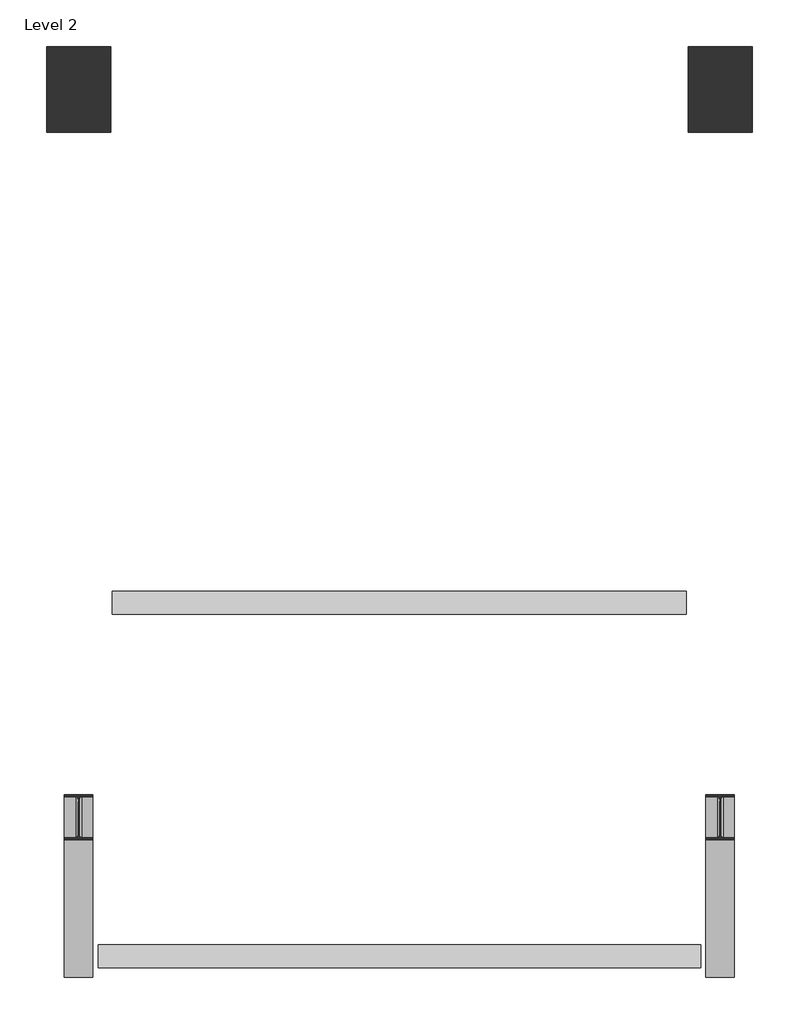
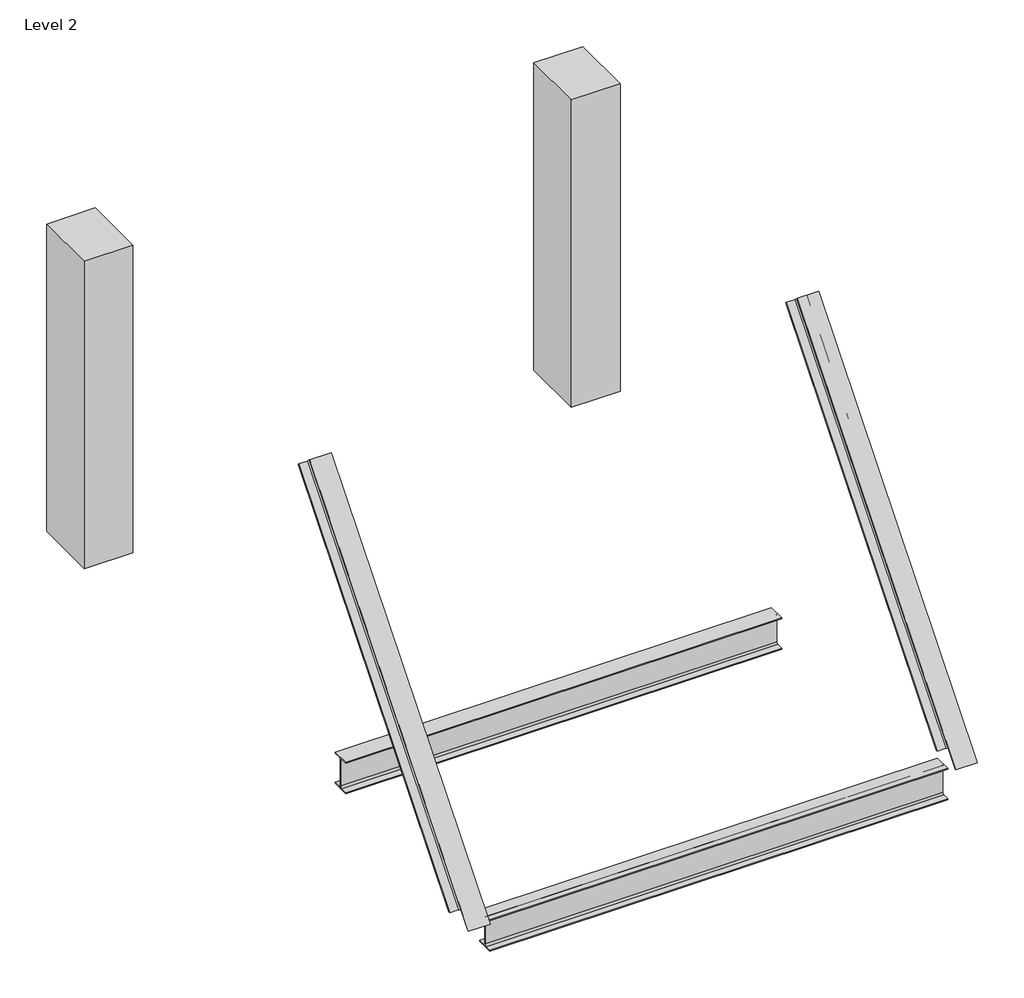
# One storey: 4 columns, 2 beams.
"""IFC4 building model written with IfcOpenShell, lengths in millimetres."""

import ifcopenshell
import ifcopenshell.guid

model = None  # the IFC model being written
_history = None  # IfcOwnerHistory: only IFC2X3 demands one
_inside = {}  # id of a spatial element -> (the spatial element, [elements in it])
_under = {}  # id of a project, library or spatial element -> (it, [spatial elements below it])
_declared = {}  # id of a project -> (the project, [libraries it declares])
_typed = {}  # id of a type object -> (the type object, [elements of that type])
_made_of = {}  # id of a material, layer set ... -> (it, [elements and type objects made of it])


def new_model(schema):
    """Start an empty IFC model of exactly this schema.

    Asked for "IFC4X3", IfcOpenShell would pick the latest addendum, in which some entities
    have other attributes; the version numbers below select the first issue.
    IFC2X3 requires an IfcOwnerHistory on every rooted entity: one is made here for all.
    """
    global model, _history
    if schema == "IFC4X3":
        model = ifcopenshell.file(schema_version=(4, 3, 0, 0))
    else:
        model = ifcopenshell.file(schema=schema)
    _inside.clear()
    _under.clear()
    _declared.clear()
    _typed.clear()
    _made_of.clear()
    _history = None
    if model.schema == "IFC2X3":
        org = make("IfcOrganization", Name="unknown")
        user = make(
            "IfcPersonAndOrganization",
            ThePerson=make("IfcPerson", FamilyName="unknown"),
            TheOrganization=org,
        )
        app = make(
            "IfcApplication",
            ApplicationDeveloper=org,
            Version="unknown",
            ApplicationFullName="unknown",
            ApplicationIdentifier="unknown",
        )
        _history = make(
            "IfcOwnerHistory",
            OwningUser=user,
            OwningApplication=app,
            ChangeAction="ADDED",
            CreationDate=0,
        )
    return model


def make(cls, **values):
    """One entity of the class cls with the attributes given. An attribute that is None is left unset."""
    return model.create_entity(
        cls, **{name: value for name, value in values.items() if value is not None}
    )


def rooted(cls, **values):
    """An entity with a GlobalId (a new one), such as an element, a storey or a relation."""
    return make(cls, GlobalId=ifcopenshell.guid.new(), OwnerHistory=_history, **values)


def si_unit(unit_type, name, prefix=None):
    """IfcSIUnit, for example si_unit("LENGTHUNIT", "METRE", prefix="MILLI")."""
    return make("IfcSIUnit", UnitType=unit_type, Prefix=prefix, Name=name)


def assignment(units):
    """IfcUnitAssignment: the units of a project."""
    return None if units is None else make("IfcUnitAssignment", Units=units)


def point(xyz):
    """IfcCartesianPoint."""
    return None if xyz is None else make("IfcCartesianPoint", Coordinates=xyz)


def direction(xyz):
    """IfcDirection."""
    return None if xyz is None else make("IfcDirection", DirectionRatios=xyz)


def frame(location, z_axis=None, x_axis=None):
    """IfcAxis2Placement3D, a coordinate frame: its origin and axes. An axis left out is left unset."""
    return make(
        "IfcAxis2Placement3D",
        Location=point(location),
        Axis=direction(z_axis),
        RefDirection=direction(x_axis),
    )


def frame_2d(location, x_axis=None):
    """IfcAxis2Placement2D, a coordinate frame in the plane: its origin and x axis."""
    return make(
        "IfcAxis2Placement2D", Location=point(location), RefDirection=direction(x_axis)
    )


def origin():
    """The frame at (0, 0, 0) with its axes left unset."""
    return frame((0.0, 0.0, 0.0))


def place(relative_to, where):
    """IfcLocalPlacement: puts the frame where relative to a parent placement (None: the world)."""
    return make(
        "IfcLocalPlacement", PlacementRelTo=relative_to, RelativePlacement=where
    )


def context(
    kind, dimensions, precision=None, world=None, true_north=None, identifier=None
):
    """IfcGeometricRepresentationContext, for example the 3D "Model" context."""
    return make(
        "IfcGeometricRepresentationContext",
        ContextIdentifier=identifier,
        ContextType=kind,
        CoordinateSpaceDimension=dimensions,
        Precision=precision,
        WorldCoordinateSystem=world,
        TrueNorth=true_north,
    )


def project(units=None, contexts=None):
    """IfcProject with its units and contexts."""
    return rooted(
        "IfcProject",
        Name="project",
        RepresentationContexts=contexts,
        UnitsInContext=assignment(units),
    )


def spatial(cls, under=None, at=None, **own):
    """A site, building, storey or space (cls), placed at a placement, below another one or the project."""
    s = rooted(cls, ObjectPlacement=at, **own)
    if under is not None:
        _under.setdefault(under.id(), (under, []))[1].append(s)
    return s


def polyline(points):
    """IfcPolyline through the points."""
    return make("IfcPolyline", Points=[point(p) for p in points])


def circle_curve(where, radius):
    """IfcCircle in the frame where."""
    return make("IfcCircle", Position=where, Radius=radius)


def ellipse_curve(where, semi_axis1, semi_axis2):
    """IfcEllipse in the frame where."""
    return make(
        "IfcEllipse", Position=where, SemiAxis1=semi_axis1, SemiAxis2=semi_axis2
    )


def trimmed(basis, trim1, trim2, sense, master):
    """IfcTrimmedCurve: the piece of a basis curve between two trims."""
    return make(
        "IfcTrimmedCurve",
        BasisCurve=basis,
        Trim1=trim1,
        Trim2=trim2,
        SenseAgreement=sense,
        MasterRepresentation=master,
    )


def segment(curve, same_sense, transition):
    """IfcCompositeCurveSegment."""
    return make(
        "IfcCompositeCurveSegment",
        Transition=transition,
        SameSense=same_sense,
        ParentCurve=curve,
    )


def composite_curve(segments, self_intersect=None):
    """IfcCompositeCurve: segments joined end to end."""
    return make("IfcCompositeCurve", Segments=segments, SelfIntersect=self_intersect)


def outline(outer, holes=None, kind="AREA"):
    """IfcArbitraryClosedProfileDef: a profile drawn as a closed curve; with holes, ...WithVoids."""
    if holes is None:
        return make("IfcArbitraryClosedProfileDef", ProfileType=kind, OuterCurve=outer)
    return make(
        "IfcArbitraryProfileDefWithVoids",
        ProfileType=kind,
        OuterCurve=outer,
        InnerCurves=holes,
    )


def extrude(swept, where, along, depth):
    """IfcExtrudedAreaSolid: the profile swept, set in the frame where, extruded along a direction by depth."""
    return make(
        "IfcExtrudedAreaSolid",
        SweptArea=swept,
        Position=where,
        ExtrudedDirection=direction(along),
        Depth=depth,
    )


def shape(context_of_items, identifier, shape_type, items):
    """IfcShapeRepresentation: the items that make up one representation, for example the "Body"."""
    return make(
        "IfcShapeRepresentation",
        ContextOfItems=context_of_items,
        RepresentationIdentifier=identifier,
        RepresentationType=shape_type,
        Items=items,
    )


def source(mapping_origin, context_of_items, identifier, shape_type, items):
    """IfcRepresentationMap: a shape defined once, which mapped items show again and again."""
    return make(
        "IfcRepresentationMap",
        MappingOrigin=mapping_origin,
        MappedRepresentation=shape(context_of_items, identifier, shape_type, items),
    )


def transform(
    local_origin,
    x_axis=None,
    y_axis=None,
    z_axis=None,
    scale=None,
    scale2=None,
    scale3=None,
    uniform=True,
):
    """IfcCartesianTransformationOperator3D, or its non-uniform kind. x_axis, y_axis, z_axis: its Axis1, 2, 3."""
    if uniform:
        return make(
            "IfcCartesianTransformationOperator3D",
            Axis1=direction(x_axis),
            Axis2=direction(y_axis),
            LocalOrigin=point(local_origin),
            Scale=scale,
            Axis3=direction(z_axis),
        )
    return make(
        "IfcCartesianTransformationOperator3DnonUniform",
        Axis1=direction(x_axis),
        Axis2=direction(y_axis),
        LocalOrigin=point(local_origin),
        Scale=scale,
        Axis3=direction(z_axis),
        Scale2=scale2,
        Scale3=scale3,
    )


def mapped(mapping_source, mapping_target):
    """IfcMappedItem: shows the shape of a source again, moved by a transform."""
    return make(
        "IfcMappedItem", MappingSource=mapping_source, MappingTarget=mapping_target
    )


def made_of(thing, what):
    """Note that an element or type object is made of a material, layer set ...; save() writes the relation."""
    if what is not None:
        _made_of.setdefault(what.id(), (what, []))[1].append(thing)
    return thing


def element(
    cls,
    number,
    at=None,
    inside=None,
    cuts=None,
    type_object=None,
    material=None,
    context=None,
    identifier="Body",
    shape_type=None,
    held_by="IfcProductDefinitionShape",
    body=None,
    shapes=None,
    **own,
):
    """One element of the class cls, such as IfcWall. Its Tag is "e" and its number.

    at: its placement. inside: the storey or other place that contains it. cuts: it is an
    opening in that element (IfcRelVoidsElement). A single representation is given by context,
    identifier, shape_type and body (its items); several are given by shapes. held_by: the class
    of the entity that holds the representations. save() writes the other relations.
    """
    e = rooted(cls, Tag="e%d" % number, ObjectPlacement=at, **own)
    if body is not None:
        shapes = [shape(context, identifier, shape_type, body)]
    if shapes is not None:
        e.Representation = make(held_by, Representations=shapes)
    if inside is not None:
        _inside.setdefault(inside.id(), (inside, []))[1].append(e)
    if cuts is not None:
        rooted(
            "IfcRelVoidsElement", RelatingBuildingElement=cuts, RelatedOpeningElement=e
        )
    if type_object is not None:
        _typed.setdefault(type_object.id(), (type_object, []))[1].append(e)
    return made_of(e, material)


def aggregate(whole, parts):
    """IfcRelAggregates: a whole, such as a stair, and the parts it consists of."""
    return rooted("IfcRelAggregates", RelatingObject=whole, RelatedObjects=parts)


def save(model, path):
    """Write the relations noted so far, then the file.

    IfcRelAggregates (storeys below a building ...), IfcRelContainedInSpatialStructure (elements
    in a storey), IfcRelDefinesByType, IfcRelAssociatesMaterial and IfcRelDeclares: one each for
    every whole, place, type object, material and project.
    """
    for whole, parts in _under.values():
        aggregate(whole, parts)
    for where, things in _inside.values():
        rooted(
            "IfcRelContainedInSpatialStructure",
            RelatedElements=things,
            RelatingStructure=where,
        )
    for kind, things in _typed.values():
        rooted("IfcRelDefinesByType", RelatedObjects=things, RelatingType=kind)
    for what, things in _made_of.values():
        rooted("IfcRelAssociatesMaterial", RelatedObjects=things, RelatingMaterial=what)
    for by, libraries in _declared.values():
        rooted("IfcRelDeclares", RelatingContext=by, RelatedDefinitions=libraries)
    model.write(path)


def plane_surface(at):
    """IfcPlane: the flat surface through the origin of the frame at, square to its z axis."""
    return make("IfcPlane", Position=at)


def revolved_surface(curve, axis_point, axis_direction):
    """IfcSurfaceOfRevolution: the curve turned about the line through axis_point along axis_direction."""
    return make(
        "IfcSurfaceOfRevolution",
        SweptCurve=make("IfcArbitraryOpenProfileDef", ProfileType="CURVE", Curve=curve),
        AxisPosition=make("IfcAxis1Placement", Location=point(axis_point), Axis=direction(axis_direction)),
    )


def advanced_brep(points, edges, surfaces, faces):
    """IfcAdvancedBrep: a solid bounded by faces that lie on surfaces and meet in shared edges.

    An edge is (start, end): straight between two places in points (the first is 0);
    or (start, end, curve); or (start, end, curve, False) where it runs against its curve.
    A face is (place in surfaces, loops), or (place, loops, False) where it looks against
    its surface's normal. A loop lists edges by number (the first is 1), with a minus sign
    where the edge is run from its end to its start. The first loop is the outer one.
    """
    corners = [point(p) for p in points]
    vertices = [make("IfcVertexPoint", VertexGeometry=c) for c in corners]
    made = []
    for start, end, *more in edges:
        made.append(
            make(
                "IfcEdgeCurve",
                EdgeStart=vertices[start],
                EdgeEnd=vertices[end],
                EdgeGeometry=more[0] if more else make("IfcPolyline", Points=[corners[start], corners[end]]),
                SameSense=more[1] if len(more) > 1 else True,
            )
        )
    hull = []
    for where, loops, *sense in faces:
        bounds = []
        for j, loop in enumerate(loops):
            ring = [make("IfcOrientedEdge", EdgeElement=made[abs(k) - 1], Orientation=k > 0) for k in loop]
            bounds.append(
                make(
                    "IfcFaceOuterBound" if j == 0 else "IfcFaceBound",
                    Bound=make("IfcEdgeLoop", EdgeList=ring),
                    Orientation=True,
                )
            )
        hull.append(make("IfcAdvancedFace", Bounds=bounds, FaceSurface=surfaces[where], SameSense=sense[0] if sense else True))
    return make("IfcAdvancedBrep", Outer=make("IfcClosedShell", CfsFaces=hull))


def w_wide_flange_w12x26_ad91ab04(model_context):
    return source(origin(), model_context, "Body", "SweptSolid", [
        extrude(outline(composite_curve([segment(polyline([(82.4011719, -145.5539063), (82.4011719, -155.178125), (-82.4011719, -155.178125), (-82.4011719, -145.5539063), (-20.2902344, -145.5539063)]), True, "CONTINUOUS"), segment(trimmed(circle_curve(frame_2d((-20.2902344, -128.190625)), 17.3632812), [point((-20.2902344, -145.5539063))], [point((-2.9269531, -128.190625))], True, "CARTESIAN"), True, "CONTINUOUS"), segment(polyline([(-2.9269531, -128.190625), (-2.9269531, 128.190625)]), True, "CONTINUOUS"), segment(trimmed(circle_curve(frame_2d((-20.2902344, 128.190625)), 17.3632812), [point((-2.9269531, 128.190625))], [point((-20.2902344, 145.5539062))], True, "CARTESIAN"), True, "CONTINUOUS"), segment(polyline([(-20.2902344, 145.5539062), (-82.4011719, 145.5539062), (-82.4011719, 155.178125), (82.4011719, 155.178125), (82.4011719, 145.5539062), (20.2902344, 145.5539062)]), True, "CONTINUOUS"), segment(trimmed(circle_curve(frame_2d((20.2902344, 128.190625)), 17.3632812), [point((20.2902344, 145.5539062))], [point((2.9269531, 128.190625))], True, "CARTESIAN"), True, "CONTINUOUS"), segment(polyline([(2.9269531, 128.190625), (2.9269531, -128.190625)]), True, "CONTINUOUS"), segment(trimmed(circle_curve(frame_2d((20.2902344, -128.190625)), 17.3632812), [point((2.9269531, -128.190625))], [point((20.2902344, -145.5539063))], True, "CARTESIAN"), True, "CONTINUOUS"), segment(polyline([(20.2902344, -145.5539063), (82.4011719, -145.5539063)]), True, "CONTINUOUS")], self_intersect=False)), frame((-2146.3, 0.0, 0.0), z_axis=(1.0, 0.0, 0.0), x_axis=(0.0, 1.0, 0.0)), (0.0, 0.0, 1.0), 4292.6),
    ])


def w_wide_flange_w12x26_f50af644(model_context):
    return source(origin(), model_context, "Body", "SweptSolid", [
        extrude(outline(composite_curve([segment(polyline([(82.4011719, -145.5539063), (82.4011719, -155.178125), (-82.4011719, -155.178125), (-82.4011719, -145.5539063), (-20.2902344, -145.5539063)]), True, "CONTINUOUS"), segment(trimmed(circle_curve(frame_2d((-20.2902344, -128.190625)), 17.3632812), [point((-20.2902344, -145.5539063))], [point((-2.9269531, -128.190625))], True, "CARTESIAN"), True, "CONTINUOUS"), segment(polyline([(-2.9269531, -128.190625), (-2.9269531, 128.190625)]), True, "CONTINUOUS"), segment(trimmed(circle_curve(frame_2d((-20.2902344, 128.190625)), 17.3632812), [point((-2.9269531, 128.190625))], [point((-20.2902344, 145.5539062))], True, "CARTESIAN"), True, "CONTINUOUS"), segment(polyline([(-20.2902344, 145.5539062), (-82.4011719, 145.5539062), (-82.4011719, 155.178125), (82.4011719, 155.178125), (82.4011719, 145.5539062), (20.2902344, 145.5539062)]), True, "CONTINUOUS"), segment(trimmed(circle_curve(frame_2d((20.2902344, 128.190625)), 17.3632812), [point((20.2902344, 145.5539062))], [point((2.9269531, 128.190625))], True, "CARTESIAN"), True, "CONTINUOUS"), segment(polyline([(2.9269531, 128.190625), (2.9269531, -128.190625)]), True, "CONTINUOUS"), segment(trimmed(circle_curve(frame_2d((20.2902344, -128.190625)), 17.3632812), [point((2.9269531, -128.190625))], [point((20.2902344, -145.5539063))], True, "CARTESIAN"), True, "CONTINUOUS"), segment(polyline([(20.2902344, -145.5539063), (82.4011719, -145.5539063)]), True, "CONTINUOUS")], self_intersect=False)), frame((-2044.7, 0.0, 0.0), z_axis=(1.0, 0.0, 0.0), x_axis=(0.0, 1.0, 0.0)), (0.0, 0.0, 1.0), 4089.4),
    ])


model = new_model("IFC4")

# Units and contexts
model_context = context("Model", 3, world=origin())
ifc_project = project(units=[si_unit("LENGTHUNIT", "METRE", prefix="MILLI")], contexts=[model_context])

# Site, building, storey
site = spatial("IfcSite", under=ifc_project)
building = spatial("IfcBuilding", under=site)
storey = spatial("IfcBuildingStorey", under=building, Name="Level 2", Elevation=3048.0)

# Beams
placement = place(None, origin())
w_wide_flange_w12x26_shape = w_wide_flange_w12x26_ad91ab04(model_context)
element("IfcBeam", 1, ObjectType="W-Wide Flange : W12X26", at=placement, inside=storey, context=model_context, shape_type="MappedRepresentation", body=[
    mapped(w_wide_flange_w12x26_shape, transform((-15108.9871131, 4014.0177794, 2892.821875), x_axis=(1.0, 0.0, 0.0), y_axis=(0.0, 1.0, 0.0), z_axis=(0.0, 0.0, 1.0))),
])
w_wide_flange_w12x26_2_shape = w_wide_flange_w12x26_f50af644(model_context)
element("IfcBeam", 2, ObjectType="W-Wide Flange : W12X26", at=placement, inside=storey, context=model_context, shape_type="MappedRepresentation", body=[
    mapped(w_wide_flange_w12x26_2_shape, transform((-15108.9871131, 6535.561515, 2892.821875), x_axis=(1.0, 0.0, 0.0), y_axis=(0.0, 1.0, 0.0), z_axis=(0.0, 0.0, 1.0))),
])

# Columns
element("IfcColumn", 3, ObjectType="Concrete-Rectangular-Column : 18 x 24", at=placement, inside=storey, context=model_context, shape_type="SweptSolid", body=[
    extrude(outline(polyline([(-17166.3871131, 10497.961515), (-17166.3871131, 9888.361515), (-17623.5871131, 9888.361515), (-17623.5871131, 10497.961515), (-17166.3871131, 10497.961515)])), frame((0.0, 0.0, 3048.0), z_axis=(0.0, 0.0, 1.0), x_axis=(1.0, 0.0, 0.0)), (0.0, 0.0, 1.0), 3048.0),
])
element("IfcColumn", 4, ObjectType="Concrete-Rectangular-Column : 18 x 24", at=placement, inside=storey, context=model_context, shape_type="SweptSolid", body=[
    extrude(outline(polyline([(-12594.3871131, 10497.961515), (-12594.3871131, 9888.361515), (-13051.5871131, 9888.361515), (-13051.5871131, 10497.961515), (-12594.3871131, 10497.961515)])), frame((0.0, 0.0, 3048.0), z_axis=(0.0, 0.0, 1.0), x_axis=(1.0, 0.0, 0.0)), (0.0, 0.0, 1.0), 3048.0),
])
element("IfcColumn", 5, ObjectType="W-Wide Flange-Column : W10X33", at=placement, inside=storey, context=model_context, shape_type="AdvancedBrep", body=[
    advanced_brep(
    [(-17293.8832068, 3864.141078, 3060.7), (-17496.0910193, 3864.141078, 3060.7), (-17496.0910193, 3878.4345568, 3060.7), (-17416.2199256, 3878.4345568, 3060.7), (-17398.6582068, 3901.2268608, 3060.7), (-17398.6582068, 4147.8215624, 3060.7), (-17416.2199256, 4170.6138664, 3060.7), (-17496.0910193, 4170.6138664, 3060.7), (-17496.0910193, 4184.9073452, 3060.7), (-17293.8832068, 4184.9073452, 3060.7), (-17293.8832068, 4170.6138664, 3060.7), (-17373.7543006, 4170.6138664, 3060.7), (-17391.3160193, 4147.8215624, 3060.7), (-17391.3160193, 3901.2268608, 3060.7), (-17373.7543006, 3878.4345568, 3060.7), (-17293.8832068, 3878.4345568, 3060.7), (-17496.0910193, 6440.3441253, 6174.771264), (-17293.8832068, 6440.3441253, 6174.771264), (-17293.8832068, 6448.8299786, 6167.7511032), (-17373.7543006, 6448.8299786, 6167.7511032), (-17391.3160193, 6462.3614743, 6156.5567927), (-17391.3160193, 6608.7615557, 6035.4432073), (-17373.7543006, 6622.2930515, 6024.2488968), (-17293.8832068, 6622.2930515, 6024.2488968), (-17293.8832068, 6630.7789048, 6017.228736), (-17496.0910193, 6630.7789048, 6017.228736), (-17496.0910193, 6622.2930515, 6024.2488968), (-17416.2199256, 6622.2930515, 6024.2488968), (-17398.6582068, 6608.7615557, 6035.4432073), (-17398.6582068, 6462.3614743, 6156.5567927), (-17416.2199256, 6448.8299786, 6167.7511032), (-17496.0910193, 6448.8299786, 6167.7511032)],
    [
        (0, 1),
        (1, 2),
        (2, 3),
        (3, 4, ellipse_curve(frame((-17416.2199256, 3901.2268608, 3060.7), z_axis=(0.0, 0.0, 1.0), x_axis=(0.0, -1.0, 0.0)), 22.792304, 17.5617187)),
        (4, 5),
        (5, 6, ellipse_curve(frame((-17416.2199256, 4147.8215624, 3060.7), z_axis=(0.0, 0.0, 1.0), x_axis=(0.0, -1.0, 0.0)), 22.792304, 17.5617187)),
        (6, 7),
        (7, 8),
        (8, 9),
        (9, 10),
        (10, 11),
        (11, 12, ellipse_curve(frame((-17373.7543006, 4147.8215624, 3060.7), z_axis=(0.0, 0.0, 1.0), x_axis=(0.0, -1.0, 0.0)), 22.792304, 17.5617187)),
        (12, 13),
        (13, 14, ellipse_curve(frame((-17373.7543006, 3901.2268608, 3060.7), z_axis=(0.0, 0.0, 1.0), x_axis=(0.0, -1.0, 0.0)), 22.792304, 17.5617187)),
        (14, 15),
        (15, 0),
        (16, 17),
        (17, 18),
        (18, 19),
        (19, 20, circle_curve(frame((-17373.7543006, 6462.3614743, 6156.5567927), z_axis=(0.0, -0.6374268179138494, -0.7705109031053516), x_axis=(-1.0, 0.0, 0.0)), 17.5617187)),
        (20, 21),
        (21, 22, circle_curve(frame((-17373.7543006, 6608.7615557, 6035.4432073), z_axis=(0.0, -0.6374268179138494, -0.7705109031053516), x_axis=(-1.0, 0.0, 0.0)), 17.5617188)),
        (22, 23),
        (23, 24),
        (24, 25),
        (25, 26),
        (26, 27),
        (27, 28, circle_curve(frame((-17416.2199256, 6608.7615557, 6035.4432073), z_axis=(0.0, -0.6374268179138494, -0.7705109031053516), x_axis=(-1.0, 0.0, 0.0)), 17.5617188)),
        (28, 29),
        (29, 30, circle_curve(frame((-17416.2199256, 6462.3614743, 6156.5567927), z_axis=(0.0, -0.6374268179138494, -0.7705109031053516), x_axis=(-1.0, 0.0, 0.0)), 17.5617188)),
        (30, 31),
        (31, 16),
        (16, 1),
        (0, 17),
        (15, 18),
        (14, 19),
        (13, 20),
        (12, 21),
        (11, 22),
        (10, 23),
        (9, 24),
        (8, 25),
        (7, 26),
        (6, 27),
        (5, 28),
        (4, 29),
        (3, 30),
        (2, 31),
    ],
    [
        plane_surface(frame((-17394.9871131, 4014.0177794, 3060.7), z_axis=(0.0, 0.0, -1.0), x_axis=(1.0, 0.0, 0.0))),
        plane_surface(frame((-17293.8832068, 6440.3441253, 6174.771264), z_axis=(0.0, 0.6374268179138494, 0.7705109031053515), x_axis=(1.0, 0.0, 0.0))),
        plane_surface(frame((-17496.0910193, 6440.3441253, 6174.771264), z_axis=(0.0, -0.7705109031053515, 0.6374268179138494), x_axis=(0.0, -0.6374268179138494, -0.7705109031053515))),
        plane_surface(frame((-17293.8832068, 6440.3441253, 6174.771264), z_axis=(1.0, 0.0, 0.0), x_axis=(0.0, -0.6374268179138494, -0.7705109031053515))),
        plane_surface(frame((-17293.8832068, 6448.8299786, 6167.7511032), z_axis=(0.0, 0.7705109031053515, -0.6374268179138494), x_axis=(0.0, -0.6374268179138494, -0.7705109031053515))),
        revolved_surface(polyline([(-17391.3160193, 3891.966052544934, 3049.505689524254), (-17391.3160193, 6462.361474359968, 6156.556792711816)]), (-17373.7543006, 3687.1476276, 2801.9245945), (0.0, -0.6374268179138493, -0.7705109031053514)),
        plane_surface(frame((-17391.3160193, 6462.3614743, 6156.5567927), z_axis=(1.0, 0.0, 0.0), x_axis=(0.0, -0.6374268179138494, -0.7705109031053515))),
        revolved_surface(polyline([(-17391.3160193, 4138.560754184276, 3049.505689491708), (-17391.3160193, 6608.76155574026, 6035.443207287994)]), (-17373.7543006, 3833.547709, 2680.8110091), (0.0, -0.6374268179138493, -0.7705109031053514)),
        plane_surface(frame((-17373.7543006, 6622.2930515, 6024.2488968), z_axis=(0.0, -0.7705109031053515, 0.6374268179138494), x_axis=(0.0, -0.6374268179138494, -0.7705109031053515))),
        plane_surface(frame((-17293.8832068, 6622.2930515, 6024.2488968), z_axis=(1.0, 0.0, 0.0), x_axis=(0.0, -0.6374268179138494, -0.7705109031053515))),
        plane_surface(frame((-17293.8832068, 6630.7789048, 6017.228736), z_axis=(0.0, 0.7705109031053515, -0.6374268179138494), x_axis=(0.0, -0.6374268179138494, -0.7705109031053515))),
        plane_surface(frame((-17496.0910193, 6630.7789048, 6017.228736), z_axis=(-1.0, 0.0, 0.0), x_axis=(0.0, -0.6374268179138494, -0.7705109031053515))),
        plane_surface(frame((-17496.0910193, 6622.2930515, 6024.2488968), z_axis=(0.0, -0.7705109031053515, 0.6374268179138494), x_axis=(0.0, -0.6374268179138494, -0.7705109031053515))),
        revolved_surface(polyline([(-17433.781644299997, 4138.560754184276, 3049.505689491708), (-17433.781644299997, 6608.76155574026, 6035.443207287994)]), (-17416.2199256, 3833.547709, 2680.8110091), (0.0, -0.6374268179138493, -0.7705109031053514)),
        plane_surface(frame((-17398.6582068, 6608.7615557, 6035.4432073), z_axis=(-1.0, 0.0, 0.0), x_axis=(0.0, -0.6374268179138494, -0.7705109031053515))),
        revolved_surface(polyline([(-17433.781644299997, 3891.966052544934, 3049.505689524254), (-17433.781644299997, 6462.361474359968, 6156.556792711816)]), (-17416.2199256, 3687.1476276, 2801.9245945), (0.0, -0.6374268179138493, -0.7705109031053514)),
        plane_surface(frame((-17416.2199256, 6448.8299786, 6167.7511032), z_axis=(0.0, 0.7705109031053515, -0.6374268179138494), x_axis=(0.0, -0.6374268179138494, -0.7705109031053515))),
        plane_surface(frame((-17496.0910193, 6448.8299786, 6167.7511032), z_axis=(-1.0, 0.0, 0.0), x_axis=(0.0, -0.6374268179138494, -0.7705109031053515))),
    ],
    [
        (0, [[1, 2, 3, 4, 5, 6, 7, 8, 9, 10, 11, 12, 13, 14, 15, 16]]),
        (1, [[17, 18, 19, 20, 21, 22, 23, 24, 25, 26, 27, 28, 29, 30, 31, 32]]),
        (2, [[-17, 33, -1, 34]]),
        (3, [[-18, -34, -16, 35]]),
        (4, [[-19, -35, -15, 36]]),
        (5, [[-20, -36, -14, 37]]),
        (6, [[-21, -37, -13, 38]]),
        (7, [[-22, -38, -12, 39]]),
        (8, [[-23, -39, -11, 40]]),
        (9, [[-24, -40, -10, 41]]),
        (10, [[-25, -41, -9, 42]]),
        (11, [[-26, -42, -8, 43]]),
        (12, [[-27, -43, -7, 44]]),
        (13, [[-28, -44, -6, 45]]),
        (14, [[-29, -45, -5, 46]]),
        (15, [[-30, -46, -4, 47]]),
        (16, [[-31, -47, -3, 48]]),
        (17, [[-32, -48, -2, -33]]),
    ],
),
])
element("IfcColumn", 6, ObjectType="W-Wide Flange-Column : W10X33", at=placement, inside=storey, context=model_context, shape_type="AdvancedBrep", body=[
    advanced_brep(
    [(-12721.8832068, 3864.141078, 3060.7), (-12924.0910193, 3864.141078, 3060.7), (-12924.0910193, 3878.4345568, 3060.7), (-12844.2199256, 3878.4345568, 3060.7), (-12826.6582068, 3901.2268608, 3060.7), (-12826.6582068, 4147.8215624, 3060.7), (-12844.2199256, 4170.6138664, 3060.7), (-12924.0910193, 4170.6138664, 3060.7), (-12924.0910193, 4184.9073452, 3060.7), (-12721.8832068, 4184.9073452, 3060.7), (-12721.8832068, 4170.6138664, 3060.7), (-12801.7543006, 4170.6138664, 3060.7), (-12819.3160193, 4147.8215624, 3060.7), (-12819.3160193, 3901.2268608, 3060.7), (-12801.7543006, 3878.4345568, 3060.7), (-12721.8832068, 3878.4345568, 3060.7), (-12924.0910193, 6440.3441253, 6174.771264), (-12721.8832068, 6440.3441253, 6174.771264), (-12721.8832068, 6448.8299786, 6167.7511032), (-12801.7543006, 6448.8299786, 6167.7511032), (-12819.3160193, 6462.3614743, 6156.5567927), (-12819.3160193, 6608.7615557, 6035.4432073), (-12801.7543006, 6622.2930515, 6024.2488968), (-12721.8832068, 6622.2930515, 6024.2488968), (-12721.8832068, 6630.7789048, 6017.228736), (-12924.0910193, 6630.7789048, 6017.228736), (-12924.0910193, 6622.2930515, 6024.2488968), (-12844.2199256, 6622.2930515, 6024.2488968), (-12826.6582068, 6608.7615557, 6035.4432073), (-12826.6582068, 6462.3614743, 6156.5567927), (-12844.2199256, 6448.8299786, 6167.7511032), (-12924.0910193, 6448.8299786, 6167.7511032)],
    [
        (0, 1),
        (1, 2),
        (2, 3),
        (3, 4, ellipse_curve(frame((-12844.2199256, 3901.2268608, 3060.7), z_axis=(0.0, 0.0, 1.0), x_axis=(0.0, -0.9999999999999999, 0.0)), 22.792304, 17.5617187)),
        (4, 5),
        (5, 6, ellipse_curve(frame((-12844.2199256, 4147.8215624, 3060.7), z_axis=(0.0, 0.0, 1.0), x_axis=(0.0, -0.9999999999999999, 0.0)), 22.792304, 17.5617187)),
        (6, 7),
        (7, 8),
        (8, 9),
        (9, 10),
        (10, 11),
        (11, 12, ellipse_curve(frame((-12801.7543006, 4147.8215624, 3060.7), z_axis=(0.0, 0.0, 1.0), x_axis=(0.0, -0.9999999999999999, 0.0)), 22.792304, 17.5617187)),
        (12, 13),
        (13, 14, ellipse_curve(frame((-12801.7543006, 3901.2268608, 3060.7), z_axis=(0.0, 0.0, 1.0), x_axis=(0.0, -0.9999999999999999, 0.0)), 22.792304, 17.5617187)),
        (14, 15),
        (15, 0),
        (16, 17),
        (17, 18),
        (18, 19),
        (19, 20, circle_curve(frame((-12801.7543006, 6462.3614743, 6156.5567927), z_axis=(0.0, -0.6374268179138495, -0.7705109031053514), x_axis=(-1.0, 0.0, 0.0)), 17.5617188)),
        (20, 21),
        (21, 22, circle_curve(frame((-12801.7543006, 6608.7615557, 6035.4432073), z_axis=(0.0, -0.6374268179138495, -0.7705109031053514), x_axis=(-1.0, 0.0, 0.0)), 17.5617188)),
        (22, 23),
        (23, 24),
        (24, 25),
        (25, 26),
        (26, 27),
        (27, 28, circle_curve(frame((-12844.2199256, 6608.7615557, 6035.4432073), z_axis=(0.0, -0.6374268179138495, -0.7705109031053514), x_axis=(-1.0, 0.0, 0.0)), 17.5617187)),
        (28, 29),
        (29, 30, circle_curve(frame((-12844.2199256, 6462.3614743, 6156.5567927), z_axis=(0.0, -0.6374268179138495, -0.7705109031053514), x_axis=(-1.0, 0.0, 0.0)), 17.5617188)),
        (30, 31),
        (31, 16),
        (16, 1),
        (0, 17),
        (15, 18),
        (14, 19),
        (13, 20),
        (12, 21),
        (11, 22),
        (10, 23),
        (9, 24),
        (8, 25),
        (7, 26),
        (6, 27),
        (5, 28),
        (4, 29),
        (3, 30),
        (2, 31),
    ],
    [
        plane_surface(frame((-12822.9871131, 4014.0177794, 3060.7), z_axis=(0.0, 0.0, -1.0), x_axis=(1.0, 0.0, 0.0))),
        plane_surface(frame((-12721.8832068, 6440.3441253, 6174.771264), z_axis=(0.0, 0.6374268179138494, 0.7705109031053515), x_axis=(1.0, 0.0, 0.0))),
        plane_surface(frame((-12924.0910193, 6440.3441253, 6174.771264), z_axis=(0.0, -0.7705109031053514, 0.6374268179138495), x_axis=(0.0, -0.6374268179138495, -0.7705109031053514))),
        plane_surface(frame((-12721.8832068, 6440.3441253, 6174.771264), z_axis=(1.0, 0.0, 0.0), x_axis=(0.0, -0.6374268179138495, -0.7705109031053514))),
        plane_surface(frame((-12721.8832068, 6448.8299786, 6167.7511032), z_axis=(0.0, 0.7705109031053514, -0.6374268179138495), x_axis=(0.0, -0.6374268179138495, -0.7705109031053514))),
        revolved_surface(polyline([(-12819.3160193, 3891.9660525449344, 3049.505689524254), (-12819.3160193, 6462.361474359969, 6156.556792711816)]), (-12801.7543006, 3687.1476276, 2801.9245945), (0.0, -0.6374268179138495, -0.7705109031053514)),
        plane_surface(frame((-12819.3160193, 6462.3614743, 6156.5567927), z_axis=(1.0, 0.0, 0.0), x_axis=(0.0, -0.6374268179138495, -0.7705109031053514))),
        revolved_surface(polyline([(-12819.3160193, 4138.560754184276, 3049.505689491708), (-12819.3160193, 6608.7615557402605, 6035.443207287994)]), (-12801.7543006, 3833.547709, 2680.8110091), (0.0, -0.6374268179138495, -0.7705109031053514)),
        plane_surface(frame((-12801.7543006, 6622.2930515, 6024.2488968), z_axis=(0.0, -0.7705109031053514, 0.6374268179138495), x_axis=(0.0, -0.6374268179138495, -0.7705109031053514))),
        plane_surface(frame((-12721.8832068, 6622.2930515, 6024.2488968), z_axis=(1.0, 0.0, 0.0), x_axis=(0.0, -0.6374268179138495, -0.7705109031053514))),
        plane_surface(frame((-12721.8832068, 6630.7789048, 6017.228736), z_axis=(0.0, 0.7705109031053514, -0.6374268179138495), x_axis=(0.0, -0.6374268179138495, -0.7705109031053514))),
        plane_surface(frame((-12924.0910193, 6630.7789048, 6017.228736), z_axis=(-1.0, 0.0, 0.0), x_axis=(0.0, -0.6374268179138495, -0.7705109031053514))),
        plane_surface(frame((-12924.0910193, 6622.2930515, 6024.2488968), z_axis=(0.0, -0.7705109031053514, 0.6374268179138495), x_axis=(0.0, -0.6374268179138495, -0.7705109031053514))),
        revolved_surface(polyline([(-12861.781644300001, 4138.560754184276, 3049.505689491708), (-12861.781644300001, 6608.7615557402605, 6035.443207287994)]), (-12844.2199256, 3833.547709, 2680.8110091), (0.0, -0.6374268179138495, -0.7705109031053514)),
        plane_surface(frame((-12826.6582068, 6608.7615557, 6035.4432073), z_axis=(-1.0, 0.0, 0.0), x_axis=(0.0, -0.6374268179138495, -0.7705109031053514))),
        revolved_surface(polyline([(-12861.781644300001, 3891.9660525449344, 3049.505689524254), (-12861.781644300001, 6462.361474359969, 6156.556792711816)]), (-12844.2199256, 3687.1476276, 2801.9245945), (0.0, -0.6374268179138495, -0.7705109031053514)),
        plane_surface(frame((-12844.2199256, 6448.8299786, 6167.7511032), z_axis=(0.0, 0.7705109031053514, -0.6374268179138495), x_axis=(0.0, -0.6374268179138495, -0.7705109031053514))),
        plane_surface(frame((-12924.0910193, 6448.8299786, 6167.7511032), z_axis=(-1.0, 0.0, 0.0), x_axis=(0.0, -0.6374268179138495, -0.7705109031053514))),
    ],
    [
        (0, [[1, 2, 3, 4, 5, 6, 7, 8, 9, 10, 11, 12, 13, 14, 15, 16]]),
        (1, [[17, 18, 19, 20, 21, 22, 23, 24, 25, 26, 27, 28, 29, 30, 31, 32]]),
        (2, [[-17, 33, -1, 34]]),
        (3, [[-18, -34, -16, 35]]),
        (4, [[-19, -35, -15, 36]]),
        (5, [[-20, -36, -14, 37]]),
        (6, [[-21, -37, -13, 38]]),
        (7, [[-22, -38, -12, 39]]),
        (8, [[-23, -39, -11, 40]]),
        (9, [[-24, -40, -10, 41]]),
        (10, [[-25, -41, -9, 42]]),
        (11, [[-26, -42, -8, 43]]),
        (12, [[-27, -43, -7, 44]]),
        (13, [[-28, -44, -6, 45]]),
        (14, [[-29, -45, -5, 46]]),
        (15, [[-30, -46, -4, 47]]),
        (16, [[-31, -47, -3, 48]]),
        (17, [[-32, -48, -2, -33]]),
    ],
),
])

save(model, "model.ifc")
